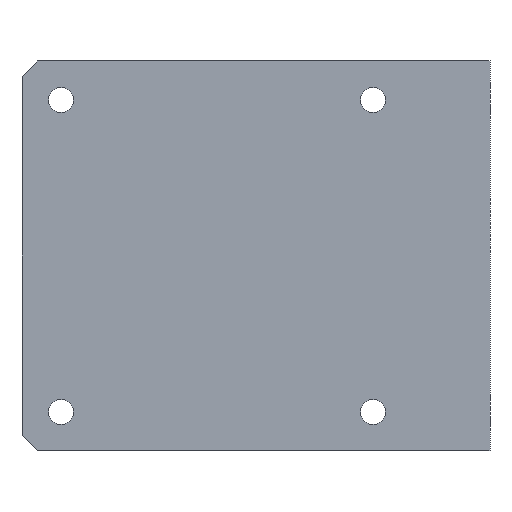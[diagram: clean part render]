
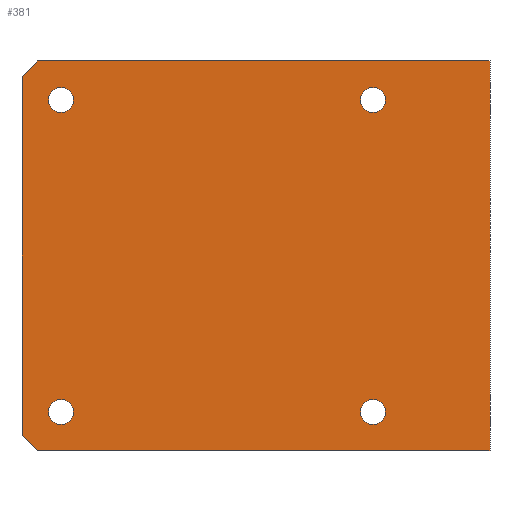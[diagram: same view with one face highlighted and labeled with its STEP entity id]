
A CAD part, left-side view. The second image highlights one B-rep face of the part: STEP entity #381.
In plain terms, the highlighted planar face has unit normal (-1, 0, 0).
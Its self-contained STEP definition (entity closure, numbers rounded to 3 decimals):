
#1 = LINE ( 'NONE', #407, #458 ) ;
#2 = CIRCLE ( 'NONE', #423, 0.8 ) ;
#11 = VERTEX_POINT ( 'NONE', #435 ) ;
#17 = CARTESIAN_POINT ( 'NONE',  ( 0., 30., -11.5 ) ) ;
#18 = FACE_BOUND ( 'NONE', #627, .T. ) ;
#37 = CARTESIAN_POINT ( 'NONE',  ( 0., 7.5, -10. ) ) ;
#40 = CARTESIAN_POINT ( 'NONE',  ( 0., 0., -12.5 ) ) ;
#54 = FACE_OUTER_BOUND ( 'NONE', #220, .T. ) ;
#66 = ORIENTED_EDGE ( 'NONE', *, *, #523, .T. ) ;
#74 = CARTESIAN_POINT ( 'NONE',  ( 0., 30., -12.5 ) ) ;
#88 = AXIS2_PLACEMENT_3D ( 'NONE', #396, #304, #293 ) ;
#91 = LINE ( 'NONE', #1058, #461 ) ;
#97 = VERTEX_POINT ( 'NONE', #451 ) ;
#103 = VERTEX_POINT ( 'NONE', #897 ) ;
#104 = CARTESIAN_POINT ( 'NONE',  ( 0., 27.5, -10. ) ) ;
#107 = CARTESIAN_POINT ( 'NONE',  ( 0., 7.5, 10. ) ) ;
#112 = DIRECTION ( 'NONE',  ( 1., 0., 0. ) ) ;
#116 = DIRECTION ( 'NONE',  ( 0., 0., -1. ) ) ;
#119 = ORIENTED_EDGE ( 'NONE', *, *, #1136, .T. ) ;
#136 = ORIENTED_EDGE ( 'NONE', *, *, #673, .F. ) ;
#140 = VERTEX_POINT ( 'NONE', #203 ) ;
#171 = DIRECTION ( 'NONE',  ( 0., -1., 0. ) ) ;
#179 = AXIS2_PLACEMENT_3D ( 'NONE', #104, #391, #116 ) ;
#181 = VECTOR ( 'NONE', #207, 1000. ) ;
#202 = VERTEX_POINT ( 'NONE', #17 ) ;
#203 = CARTESIAN_POINT ( 'NONE',  ( 0., 7.5, -10.8 ) ) ;
#207 = DIRECTION ( 'NONE',  ( 0., 0., -1. ) ) ;
#209 = CARTESIAN_POINT ( 'NONE',  ( 0., 27.5, 9.2 ) ) ;
#210 = DIRECTION ( 'NONE',  ( 1., 0., 0. ) ) ;
#220 = EDGE_LOOP ( 'NONE', ( #250, #119, #797, #734, #136, #430 ) ) ;
#222 = LINE ( 'NONE', #870, #646 ) ;
#250 = ORIENTED_EDGE ( 'NONE', *, *, #1089, .T. ) ;
#260 = AXIS2_PLACEMENT_3D ( 'NONE', #1125, #210, #849 ) ;
#271 = DIRECTION ( 'NONE',  ( 1., 0., 0. ) ) ;
#283 = VECTOR ( 'NONE', #975, 1000. ) ;
#293 = DIRECTION ( 'NONE',  ( 0., 0., -1. ) ) ;
#295 = VERTEX_POINT ( 'NONE', #681 ) ;
#299 = DIRECTION ( 'NONE',  ( 0., 1., 0. ) ) ;
#301 = VERTEX_POINT ( 'NONE', #209 ) ;
#302 = DIRECTION ( 'NONE',  ( 1., 0., 0. ) ) ;
#304 = DIRECTION ( 'NONE',  ( 1., 0., 0. ) ) ;
#308 = DIRECTION ( 'NONE',  ( 0., -0.707, -0.707 ) ) ;
#332 = EDGE_CURVE ( 'NONE', #810, #843, #731, .T. ) ;
#333 = DIRECTION ( 'NONE',  ( 0., 0., -1. ) ) ;
#353 = ORIENTED_EDGE ( 'NONE', *, *, #926, .T. ) ;
#381 = ADVANCED_FACE ( 'NONE', ( #18, #729, #910, #779, #54 ), #827, .F. ) ;
#386 = CARTESIAN_POINT ( 'NONE',  ( 0., 29., -12.5 ) ) ;
#391 = DIRECTION ( 'NONE',  ( 1., 0., 0. ) ) ;
#396 = CARTESIAN_POINT ( 'NONE',  ( 0., 7.5, -10. ) ) ;
#400 = CIRCLE ( 'NONE', #960, 0.8 ) ;
#405 = EDGE_CURVE ( 'NONE', #843, #810, #533, .T. ) ;
#407 = CARTESIAN_POINT ( 'NONE',  ( 0., 29., -12.5 ) ) ;
#423 = AXIS2_PLACEMENT_3D ( 'NONE', #37, #302, #923 ) ;
#430 = ORIENTED_EDGE ( 'NONE', *, *, #964, .T. ) ;
#431 = VERTEX_POINT ( 'NONE', #476 ) ;
#433 = EDGE_CURVE ( 'NONE', #1057, #140, #679, .T. ) ;
#435 = CARTESIAN_POINT ( 'NONE',  ( 0., 7.5, 10.8 ) ) ;
#451 = CARTESIAN_POINT ( 'NONE',  ( 0., 29., 12.5 ) ) ;
#453 = DIRECTION ( 'NONE',  ( 0., 0.707, -0.707 ) ) ;
#458 = VECTOR ( 'NONE', #308, 1000. ) ;
#461 = VECTOR ( 'NONE', #171, 1000. ) ;
#476 = CARTESIAN_POINT ( 'NONE',  ( 0., 27.5, 10.8 ) ) ;
#491 = EDGE_LOOP ( 'NONE', ( #66, #1105 ) ) ;
#517 = DIRECTION ( 'NONE',  ( 1., 0., 0. ) ) ;
#523 = EDGE_CURVE ( 'NONE', #301, #431, #979, .T. ) ;
#524 = VECTOR ( 'NONE', #453, 1000. ) ;
#525 = LINE ( 'NONE', #74, #283 ) ;
#526 = VERTEX_POINT ( 'NONE', #771 ) ;
#533 = CIRCLE ( 'NONE', #666, 0.8 ) ;
#545 = EDGE_LOOP ( 'NONE', ( #743, #748 ) ) ;
#563 = DIRECTION ( 'NONE',  ( 0., 0., -1. ) ) ;
#577 = EDGE_CURVE ( 'NONE', #11, #526, #709, .T. ) ;
#578 = VERTEX_POINT ( 'NONE', #40 ) ;
#588 = AXIS2_PLACEMENT_3D ( 'NONE', #107, #994, #652 ) ;
#627 = EDGE_LOOP ( 'NONE', ( #974, #724 ) ) ;
#646 = VECTOR ( 'NONE', #1138, 1000. ) ;
#652 = DIRECTION ( 'NONE',  ( 0., 0., -1. ) ) ;
#666 = AXIS2_PLACEMENT_3D ( 'NONE', #1092, #112, #563 ) ;
#673 = EDGE_CURVE ( 'NONE', #97, #103, #91, .T. ) ;
#679 = CIRCLE ( 'NONE', #88, 0.8 ) ;
#681 = CARTESIAN_POINT ( 'NONE',  ( 0., 30., 11.5 ) ) ;
#692 = EDGE_CURVE ( 'NONE', #899, #578, #525, .T. ) ;
#702 = CARTESIAN_POINT ( 'NONE',  ( 0., 27.5, 10. ) ) ;
#705 = AXIS2_PLACEMENT_3D ( 'NONE', #872, #517, #333 ) ;
#709 = CIRCLE ( 'NONE', #705, 0.8 ) ;
#724 = ORIENTED_EDGE ( 'NONE', *, *, #332, .T. ) ;
#729 = FACE_BOUND ( 'NONE', #951, .T. ) ;
#731 = CIRCLE ( 'NONE', #179, 0.8 ) ;
#734 = ORIENTED_EDGE ( 'NONE', *, *, #830, .F. ) ;
#737 = CARTESIAN_POINT ( 'NONE',  ( 0., 30., 12.5 ) ) ;
#743 = ORIENTED_EDGE ( 'NONE', *, *, #1022, .T. ) ;
#748 = ORIENTED_EDGE ( 'NONE', *, *, #433, .T. ) ;
#751 = CARTESIAN_POINT ( 'NONE',  ( 0., 30., 12.5 ) ) ;
#771 = CARTESIAN_POINT ( 'NONE',  ( 0., 7.5, 9.2 ) ) ;
#779 = FACE_BOUND ( 'NONE', #491, .T. ) ;
#789 = ORIENTED_EDGE ( 'NONE', *, *, #577, .T. ) ;
#797 = ORIENTED_EDGE ( 'NONE', *, *, #692, .T. ) ;
#798 = LINE ( 'NONE', #751, #181 ) ;
#810 = VERTEX_POINT ( 'NONE', #1027 ) ;
#827 = PLANE ( 'NONE',  #1103 ) ;
#830 = EDGE_CURVE ( 'NONE', #103, #578, #222, .T. ) ;
#843 = VERTEX_POINT ( 'NONE', #901 ) ;
#849 = DIRECTION ( 'NONE',  ( 0., 0., -1. ) ) ;
#851 = EDGE_CURVE ( 'NONE', #431, #301, #400, .T. ) ;
#863 = LINE ( 'NONE', #995, #524 ) ;
#870 = CARTESIAN_POINT ( 'NONE',  ( 0., 0., 12.5 ) ) ;
#872 = CARTESIAN_POINT ( 'NONE',  ( 0., 7.5, 10. ) ) ;
#897 = CARTESIAN_POINT ( 'NONE',  ( 0., 0., 12.5 ) ) ;
#899 = VERTEX_POINT ( 'NONE', #386 ) ;
#901 = CARTESIAN_POINT ( 'NONE',  ( 0., 27.5, -10.8 ) ) ;
#908 = DIRECTION ( 'NONE',  ( 1., 0., 0. ) ) ;
#910 = FACE_BOUND ( 'NONE', #545, .T. ) ;
#923 = DIRECTION ( 'NONE',  ( 0., 0., -1. ) ) ;
#926 = EDGE_CURVE ( 'NONE', #526, #11, #1071, .T. ) ;
#951 = EDGE_LOOP ( 'NONE', ( #353, #789 ) ) ;
#960 = AXIS2_PLACEMENT_3D ( 'NONE', #702, #271, #984 ) ;
#964 = EDGE_CURVE ( 'NONE', #97, #295, #863, .T. ) ;
#974 = ORIENTED_EDGE ( 'NONE', *, *, #405, .T. ) ;
#975 = DIRECTION ( 'NONE',  ( 0., -1., 0. ) ) ;
#979 = CIRCLE ( 'NONE', #260, 0.8 ) ;
#984 = DIRECTION ( 'NONE',  ( 0., 0., -1. ) ) ;
#994 = DIRECTION ( 'NONE',  ( 1., 0., 0. ) ) ;
#995 = CARTESIAN_POINT ( 'NONE',  ( 0., 30., 11.5 ) ) ;
#1022 = EDGE_CURVE ( 'NONE', #140, #1057, #2, .T. ) ;
#1027 = CARTESIAN_POINT ( 'NONE',  ( 0., 27.5, -9.2 ) ) ;
#1057 = VERTEX_POINT ( 'NONE', #1120 ) ;
#1058 = CARTESIAN_POINT ( 'NONE',  ( 0., 30., 12.5 ) ) ;
#1071 = CIRCLE ( 'NONE', #588, 0.8 ) ;
#1089 = EDGE_CURVE ( 'NONE', #295, #202, #798, .T. ) ;
#1092 = CARTESIAN_POINT ( 'NONE',  ( 0., 27.5, -10. ) ) ;
#1103 = AXIS2_PLACEMENT_3D ( 'NONE', #737, #908, #299 ) ;
#1105 = ORIENTED_EDGE ( 'NONE', *, *, #851, .T. ) ;
#1120 = CARTESIAN_POINT ( 'NONE',  ( 0., 7.5, -9.2 ) ) ;
#1125 = CARTESIAN_POINT ( 'NONE',  ( 0., 27.5, 10. ) ) ;
#1136 = EDGE_CURVE ( 'NONE', #202, #899, #1, .T. ) ;
#1138 = DIRECTION ( 'NONE',  ( 0., 0., -1. ) ) ;
